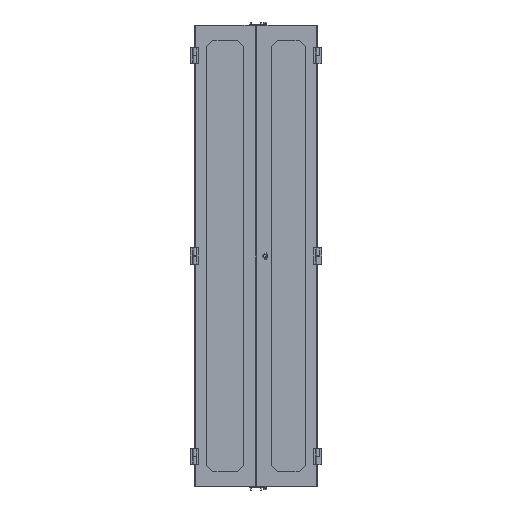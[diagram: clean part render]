
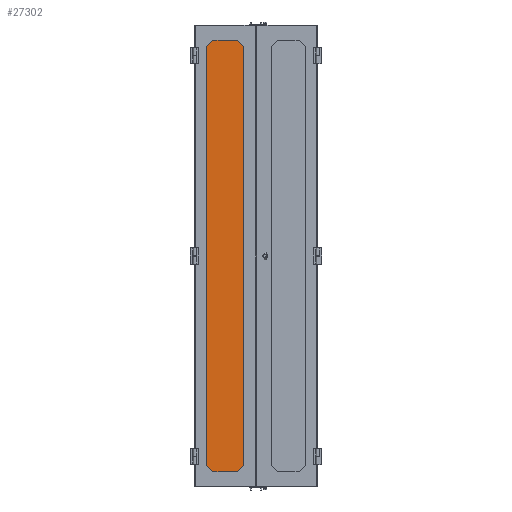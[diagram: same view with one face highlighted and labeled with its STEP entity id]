
A CAD part, front view. The second image highlights one B-rep face of the part: STEP entity #27302.
In plain terms, the highlighted planar face has unit normal (0, -1, 0).
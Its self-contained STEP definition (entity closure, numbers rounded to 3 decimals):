
#3381=ORIENTED_EDGE('',*,*,#11792,.T.);
#3382=ORIENTED_EDGE('',*,*,#11796,.T.);
#3383=ORIENTED_EDGE('',*,*,#11799,.T.);
#3384=ORIENTED_EDGE('',*,*,#11802,.T.);
#11792=EDGE_CURVE('',#16015,#16016,#19010,.T.);
#11796=EDGE_CURVE('',#16016,#16019,#19014,.T.);
#11799=EDGE_CURVE('',#16019,#16021,#19017,.T.);
#11802=EDGE_CURVE('',#16021,#16015,#19020,.T.);
#16015=VERTEX_POINT('',#40292);
#16016=VERTEX_POINT('',#40293);
#16019=VERTEX_POINT('',#40301);
#16021=VERTEX_POINT('',#40307);
#19010=LINE('',#40291,#20970);
#19014=LINE('',#40300,#20974);
#19017=LINE('',#40306,#20977);
#19020=LINE('',#40312,#20980);
#20970=VECTOR('',#33094,1000.);
#20974=VECTOR('',#33100,1000.);
#20977=VECTOR('',#33105,1000.);
#20980=VECTOR('',#33110,1000.);
#22935=EDGE_LOOP('',(#3381,#3382,#3383,#3384));
#24719=FACE_BOUND('',#22935,.T.);
#26493=PLANE('',#30416);
#27302=ADVANCED_FACE('',(#24719),#26493,.T.);
#30416=AXIS2_PLACEMENT_3D('',#40315,#33114,#33115);
#33094=DIRECTION('',(1.,0.,0.));
#33100=DIRECTION('',(0.,0.,1.));
#33105=DIRECTION('',(-1.,0.,0.));
#33110=DIRECTION('',(0.,0.,-1.));
#33114=DIRECTION('',(0.,-1.,0.));
#33115=DIRECTION('',(0.,0.,-1.));
#40291=CARTESIAN_POINT('',(90.488,0.,-924.725));
#40292=CARTESIAN_POINT('',(-90.488,0.,-924.725));
#40293=CARTESIAN_POINT('',(90.488,0.,-924.725));
#40300=CARTESIAN_POINT('',(90.488,0.,-924.725));
#40301=CARTESIAN_POINT('',(90.488,0.,924.725));
#40306=CARTESIAN_POINT('',(90.488,0.,924.725));
#40307=CARTESIAN_POINT('',(-90.488,0.,924.725));
#40312=CARTESIAN_POINT('',(-90.488,0.,924.725));
#40315=CARTESIAN_POINT('',(90.488,0.,-924.725));
